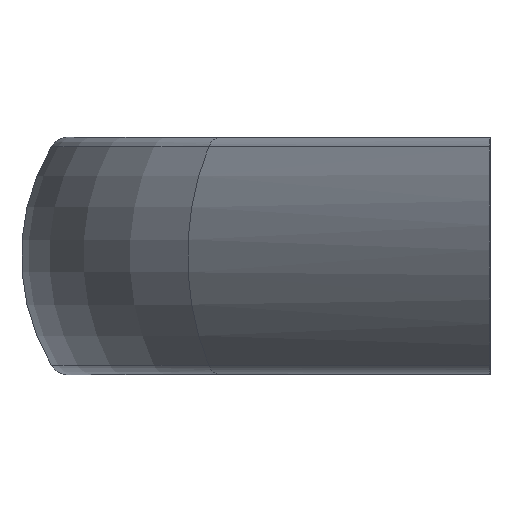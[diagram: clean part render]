
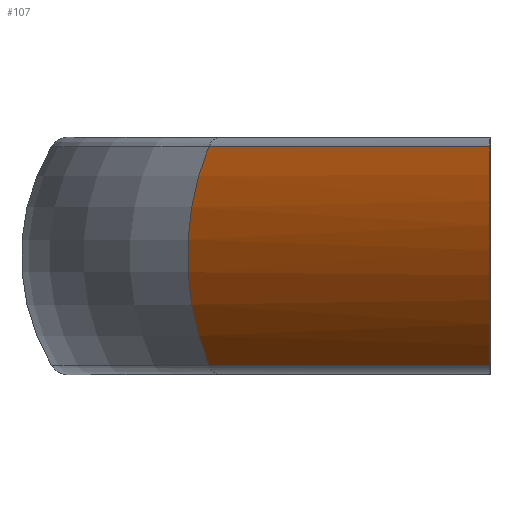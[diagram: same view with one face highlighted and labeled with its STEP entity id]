
A CAD part, left-side view. The second image highlights one B-rep face of the part: STEP entity #107.
In plain terms, the highlighted cylindrical face has radius 32.5 mm (diameter 65 mm), a partial arc.
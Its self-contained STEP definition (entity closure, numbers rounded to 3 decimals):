
#107 = ADVANCED_FACE( '', ( #181 ), #182, .T. );
#181 = FACE_OUTER_BOUND( '', #263, .T. );
#182 = CYLINDRICAL_SURFACE( '', #264, 32.5 );
#263 = EDGE_LOOP( '', ( #512, #513, #514, #515 ) );
#264 = AXIS2_PLACEMENT_3D( '', #516, #517, #518 );
#512 = ORIENTED_EDGE( '', *, *, #644, .F. );
#513 = ORIENTED_EDGE( '', *, *, #643, .T. );
#514 = ORIENTED_EDGE( '', *, *, #623, .F. );
#515 = ORIENTED_EDGE( '', *, *, #645, .F. );
#516 = CARTESIAN_POINT( '', ( -229.301, -47.88, 0. ) );
#517 = DIRECTION( '', ( -0.707, -0.707, 0. ) );
#518 = DIRECTION( '', ( -0.707, 0.707, 0. ) );
#623 = EDGE_CURVE( '', #748, #751, #752, .T. );
#643 = EDGE_CURVE( '', #777, #751, #779, .T. );
#644 = EDGE_CURVE( '', #777, #780, #781, .T. );
#645 = EDGE_CURVE( '', #780, #748, #782, .T. );
#748 = VERTEX_POINT( '', #904 );
#751 = VERTEX_POINT( '', #907 );
#752 = CIRCLE( '', #908, 32.5 );
#777 = VERTEX_POINT( '', #939 );
#779 = LINE( '', #941, #942 );
#780 = VERTEX_POINT( '', #943 );
#781 = ELLIPSE( '', #944, 45.962, 32.5 );
#782 = LINE( '', #945, #946 );
#904 = CARTESIAN_POINT( '', ( -178.379, 42.619, -16.525 ) );
#907 = CARTESIAN_POINT( '', ( -178.379, 42.619, 16.525 ) );
#908 = AXIS2_PLACEMENT_3D( '', #1088, #1089, #1090 );
#939 = CARTESIAN_POINT( '', ( -220.997, 0., 16.525 ) );
#941 = CARTESIAN_POINT( '', ( -249.089, -28.092, 16.525 ) );
#942 = VECTOR( '', #1136, 1000. );
#943 = CARTESIAN_POINT( '', ( -220.997, 0., -16.525 ) );
#944 = AXIS2_PLACEMENT_3D( '', #1137, #1138, #1139 );
#945 = CARTESIAN_POINT( '', ( -249.089, -28.092, -16.525 ) );
#946 = VECTOR( '', #1140, 1000. );
#1088 = CARTESIAN_POINT( '', ( -158.59, 22.83, 0. ) );
#1089 = DIRECTION( '', ( 0.707, 0.707, 0. ) );
#1090 = DIRECTION( '', ( 0., 0., -1. ) );
#1136 = DIRECTION( '', ( 0.707, 0.707, 0. ) );
#1137 = CARTESIAN_POINT( '', ( -181.42, 0., 0. ) );
#1138 = DIRECTION( '', ( 0., -1., 0. ) );
#1139 = DIRECTION( '', ( 1., 0., 0. ) );
#1140 = DIRECTION( '', ( 0.707, 0.707, 0. ) );
